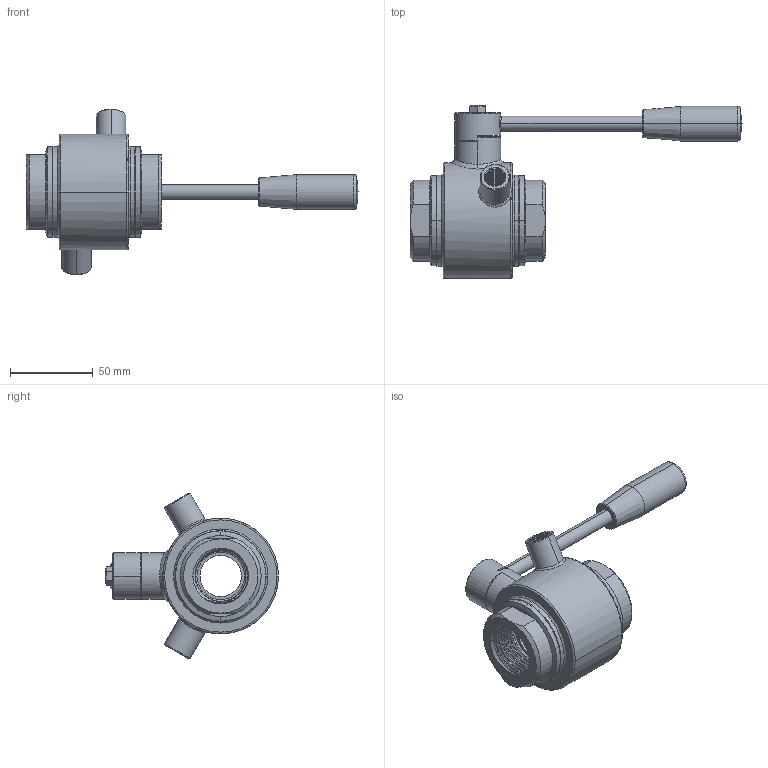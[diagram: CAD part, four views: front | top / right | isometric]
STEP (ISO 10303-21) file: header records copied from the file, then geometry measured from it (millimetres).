
FILE_DESCRIPTION((''),'2;1');
FILE_NAME('130101C62610_SW0001','2026-04-02T14:24:13',('tecnico2'),('CDM Tecnoconsulting'),'CREO PARAMETRIC BY PTC INC, 2024063','CREO PARAMETRIC BY PTC INC, 2024063','');
FILE_SCHEMA(('AUTOMOTIVE_DESIGN { 1 0 10303 214 1 1 1 1 }'));
Products named in the file (1): 130101C62610_SW0001
Bounding box: 201 x 104.75 x 100.3 mm (x, y, z)
Volume: 208545.5 mm3; surface area: 72057.4 mm2
Topology: 1 solids, 1 shells, 1090 faces, 2973 edges, 1906 vertices
Faces by surface type: plane 449, cylinder 227, extrusion 166, bspline 111, cone 99, torus 24, sphere 14
Entity records: 93104 total; most frequent: CARTESIAN_POINT 53583, ORIENTED_EDGE 5910, DIRECTION 4193, PRESENTATION_STYLE_ASSIGNMENT 3766, STYLED_ITEM 3122, CURVE_STYLE 3121, EDGE_CURVE 2955, VERTEX_POINT 1906
